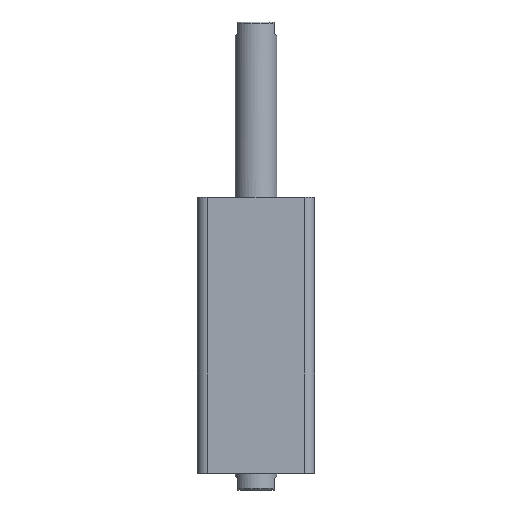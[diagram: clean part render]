
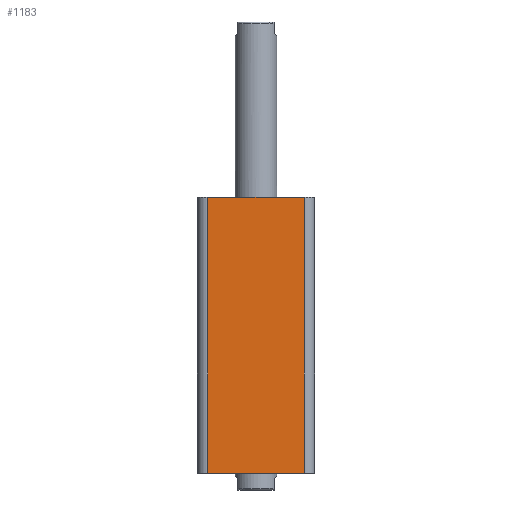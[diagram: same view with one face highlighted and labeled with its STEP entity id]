
A CAD part, front view. The second image highlights one B-rep face of the part: STEP entity #1183.
In plain terms, the highlighted planar face has unit normal (0, -1, 0).
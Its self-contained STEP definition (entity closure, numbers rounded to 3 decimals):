
#45 = CARTESIAN_POINT ( 'NONE',  ( 29., -35., 165. ) ) ;
#81 = CARTESIAN_POINT ( 'NONE',  ( -29., -35., 165. ) ) ;
#96 = CARTESIAN_POINT ( 'NONE',  ( 29., -35., 0. ) ) ;
#107 = CARTESIAN_POINT ( 'NONE',  ( -29., -35., 0. ) ) ;
#166 = VERTEX_POINT ( 'NONE', #45 ) ;
#168 = VERTEX_POINT ( 'NONE', #107 ) ;
#174 = VERTEX_POINT ( 'NONE', #96 ) ;
#220 = VERTEX_POINT ( 'NONE', #81 ) ;
#340 = EDGE_LOOP ( 'NONE', ( #3094, #3095, #3096, #3097 ) ) ;
#739 = CARTESIAN_POINT ( 'NONE',  ( -35., -35., 0. ) ) ;
#749 = CARTESIAN_POINT ( 'NONE',  ( -35., -35., 165. ) ) ;
#750 = DIRECTION ( 'NONE',  ( 1., 0., 0. ) ) ;
#751 = CARTESIAN_POINT ( 'NONE',  ( -29., -35., 165. ) ) ;
#752 = DIRECTION ( 'NONE',  ( 0., 0., -1. ) ) ;
#753 = DIRECTION ( 'NONE',  ( 1., 0., 0. ) ) ;
#754 = CARTESIAN_POINT ( 'NONE',  ( 29., -35., 165. ) ) ;
#755 = DIRECTION ( 'NONE',  ( 0., 0., 1. ) ) ;
#1183 = ADVANCED_FACE ( 'NONE', ( #1282 ), #2848, .F. ) ;
#1282 = FACE_OUTER_BOUND ( 'NONE', #340, .T. ) ;
#1664 = EDGE_CURVE ( 'NONE', #220, #166, #1978, .T. ) ;
#1665 = EDGE_CURVE ( 'NONE', #220, #168, #1980, .T. ) ;
#1666 = EDGE_CURVE ( 'NONE', #168, #174, #1972, .T. ) ;
#1667 = EDGE_CURVE ( 'NONE', #174, #166, #1984, .T. ) ;
#1789 = AXIS2_PLACEMENT_3D ( 'NONE', #2846, #2850, #2851 ) ;
#1972 = LINE ( 'NONE', #739, #1985 ) ;
#1978 = LINE ( 'NONE', #749, #1981 ) ;
#1980 = LINE ( 'NONE', #751, #1983 ) ;
#1981 = VECTOR ( 'NONE', #750, 1000. ) ;
#1983 = VECTOR ( 'NONE', #752, 1000. ) ;
#1984 = LINE ( 'NONE', #754, #1987 ) ;
#1985 = VECTOR ( 'NONE', #753, 1000. ) ;
#1987 = VECTOR ( 'NONE', #755, 1000. ) ;
#2846 = CARTESIAN_POINT ( 'NONE',  ( -35., -35., 165. ) ) ;
#2848 = PLANE ( 'NONE',  #1789 ) ;
#2850 = DIRECTION ( 'NONE',  ( 0., 1., 0. ) ) ;
#2851 = DIRECTION ( 'NONE',  ( 0., 0., 1. ) ) ;
#3094 = ORIENTED_EDGE ( 'NONE', *, *, #1664, .F. ) ;
#3095 = ORIENTED_EDGE ( 'NONE', *, *, #1665, .T. ) ;
#3096 = ORIENTED_EDGE ( 'NONE', *, *, #1666, .T. ) ;
#3097 = ORIENTED_EDGE ( 'NONE', *, *, #1667, .T. ) ;
